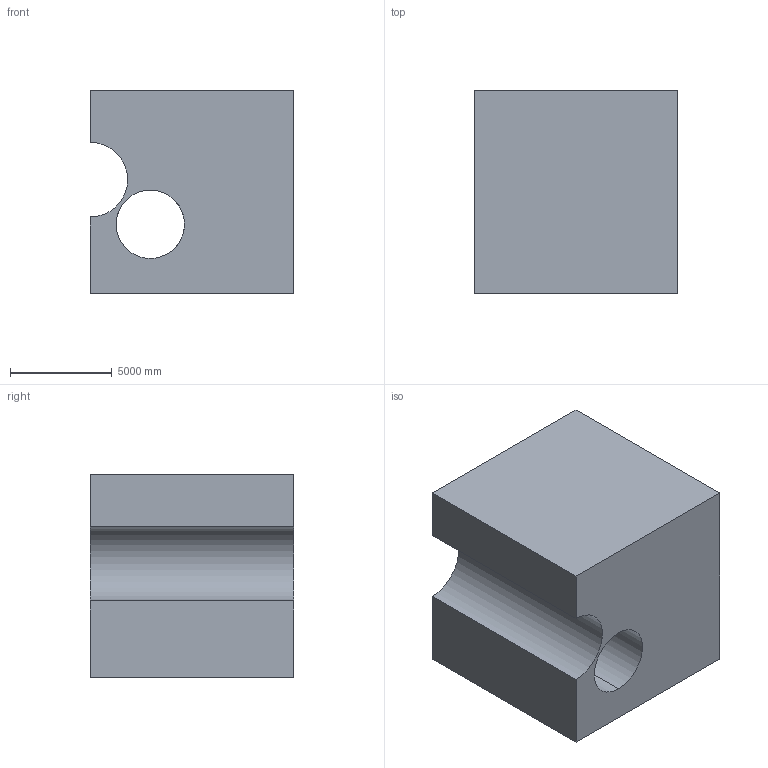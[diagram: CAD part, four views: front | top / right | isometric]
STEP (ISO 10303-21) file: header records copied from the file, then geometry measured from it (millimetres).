
FILE_DESCRIPTION (( 'STEP AP203' ), '1' );
FILE_NAME ('1256.STEP', '2022-08-18T13:25:20', ( 'user' ), ( '' ), 'SwSTEP 2.0', 'SolidWorks 2021', '' );
FILE_SCHEMA (( 'CONFIG_CONTROL_DESIGN' ));
Length unit declared in the file: centimetre
Products named in the file (1): 1256
Bounding box: 10000 x 10000 x 10000 mm (x, y, z)
Volume: 834327570720.2 mm3; surface area: 691996519.4 mm2
Topology: 1 solids, 1 shells, 14 faces, 39 edges, 26 vertices
Faces by surface type: plane 11, cylinder 3
Entity records: 532 total; most frequent: CARTESIAN_POINT 80, ORIENTED_EDGE 78, DIRECTION 77, EDGE_CURVE 39, VECTOR 31, LINE 31, VERTEX_POINT 26, AXIS2_PLACEMENT_3D 23
